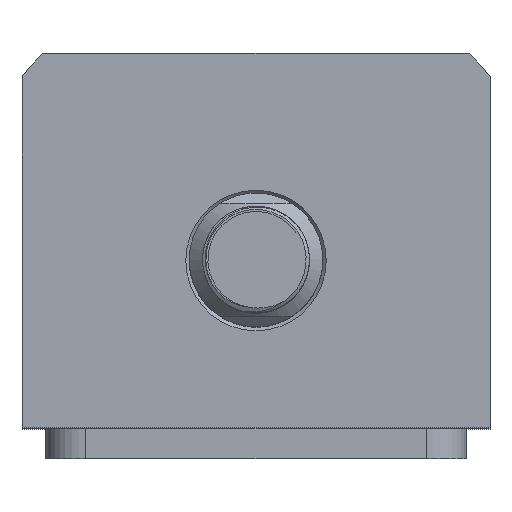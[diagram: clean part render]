
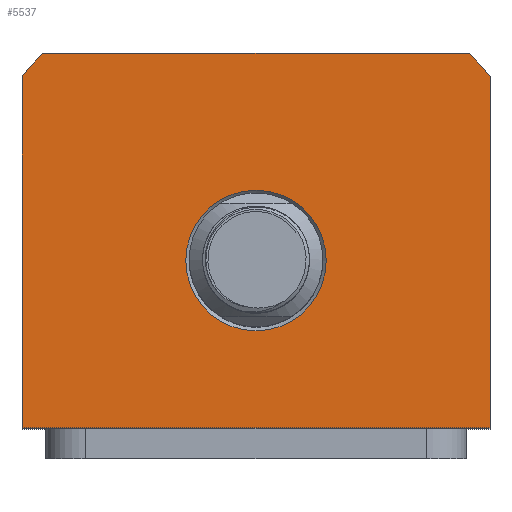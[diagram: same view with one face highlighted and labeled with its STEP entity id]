
A CAD part, top view. The second image highlights one B-rep face of the part: STEP entity #5537.
In plain terms, the highlighted planar face has unit normal (0, 0, 1).
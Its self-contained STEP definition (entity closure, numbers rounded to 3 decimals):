
#2701=PLANE('',#12815);
#3044=LINE('',#19231,#3970);
#3062=LINE('',#19875,#3988);
#3075=LINE('',#19924,#4001);
#3087=LINE('',#19953,#4013);
#3970=VECTOR('',#13373,1.);
#3988=VECTOR('',#13485,1.);
#4001=VECTOR('',#13534,1.);
#4013=VECTOR('',#13560,1.);
#5375=FACE_BOUND('',#6551,.T.);
#5376=FACE_BOUND('',#6552,.T.);
#5537=ADVANCED_FACE('',(#5375,#5376),#2701,.T.);
#6551=EDGE_LOOP('',(#7712));
#6552=EDGE_LOOP('',(#7713,#7714,#7715,#7716,#7717,#7718));
#7057=CIRCLE('',#12743,10.5);
#7085=CIRCLE('',#12791,44.5);
#7087=CIRCLE('',#12794,44.5);
#7712=ORIENTED_EDGE('',*,*,#11256,.T.);
#7713=ORIENTED_EDGE('',*,*,#11341,.T.);
#7714=ORIENTED_EDGE('',*,*,#11255,.T.);
#7715=ORIENTED_EDGE('',*,*,#11348,.T.);
#7716=ORIENTED_EDGE('',*,*,#11365,.T.);
#7717=ORIENTED_EDGE('',*,*,#11345,.T.);
#7718=ORIENTED_EDGE('',*,*,#11382,.T.);
#10186=VERTEX_POINT('',#19201);
#10201=VERTEX_POINT('',#19230);
#10202=VERTEX_POINT('',#19234);
#10279=VERTEX_POINT('',#19871);
#10281=VERTEX_POINT('',#19878);
#10284=VERTEX_POINT('',#19883);
#10286=VERTEX_POINT('',#19889);
#11255=EDGE_CURVE('',#10186,#10201,#3044,.T.);
#11256=EDGE_CURVE('',#10202,#10202,#7057,.T.);
#11341=EDGE_CURVE('',#10279,#10186,#3062,.T.);
#11345=EDGE_CURVE('',#10281,#10284,#7085,.T.);
#11348=EDGE_CURVE('',#10201,#10286,#7087,.T.);
#11365=EDGE_CURVE('',#10286,#10281,#3075,.T.);
#11382=EDGE_CURVE('',#10284,#10279,#3087,.T.);
#12743=AXIS2_PLACEMENT_3D('',#19233,#13376,#13377);
#12791=AXIS2_PLACEMENT_3D('',#19884,#13492,#13493);
#12794=AXIS2_PLACEMENT_3D('',#19890,#13499,#13500);
#12815=AXIS2_PLACEMENT_3D('',#19966,#13570,#13571);
#13373=DIRECTION('',(0.,1.,0.));
#13376=DIRECTION('',(0.,0.,-1.));
#13377=DIRECTION('',(1.,0.,0.));
#13485=DIRECTION('',(1.,0.,0.));
#13492=DIRECTION('',(0.,0.,1.));
#13493=DIRECTION('',(1.,0.,0.));
#13499=DIRECTION('',(0.,0.,1.));
#13500=DIRECTION('',(1.,0.,0.));
#13534=DIRECTION('',(-1.,0.,0.));
#13560=DIRECTION('',(0.,-1.,0.));
#13570=DIRECTION('',(0.,0.,1.));
#13571=DIRECTION('',(-1.,0.,0.));
#19201=CARTESIAN_POINT('',(35.,-25.,59.5));
#19230=CARTESIAN_POINT('',(35.,27.482,59.5));
#19231=CARTESIAN_POINT('',(35.,27.482,59.5));
#19233=CARTESIAN_POINT('',(0.,0.,59.5));
#19234=CARTESIAN_POINT('',(10.5,0.,59.5));
#19871=CARTESIAN_POINT('',(-35.,-25.,59.5));
#19875=CARTESIAN_POINT('',(35.,-25.,59.5));
#19878=CARTESIAN_POINT('',(-31.926,31.,59.5));
#19883=CARTESIAN_POINT('',(-35.,27.482,59.5));
#19884=CARTESIAN_POINT('',(0.,0.,59.5));
#19889=CARTESIAN_POINT('',(31.926,31.,59.5));
#19890=CARTESIAN_POINT('',(0.,0.,59.5));
#19924=CARTESIAN_POINT('',(-31.926,31.,59.5));
#19953=CARTESIAN_POINT('',(-35.,-25.,59.5));
#19966=CARTESIAN_POINT('',(0.,0.,59.5));
